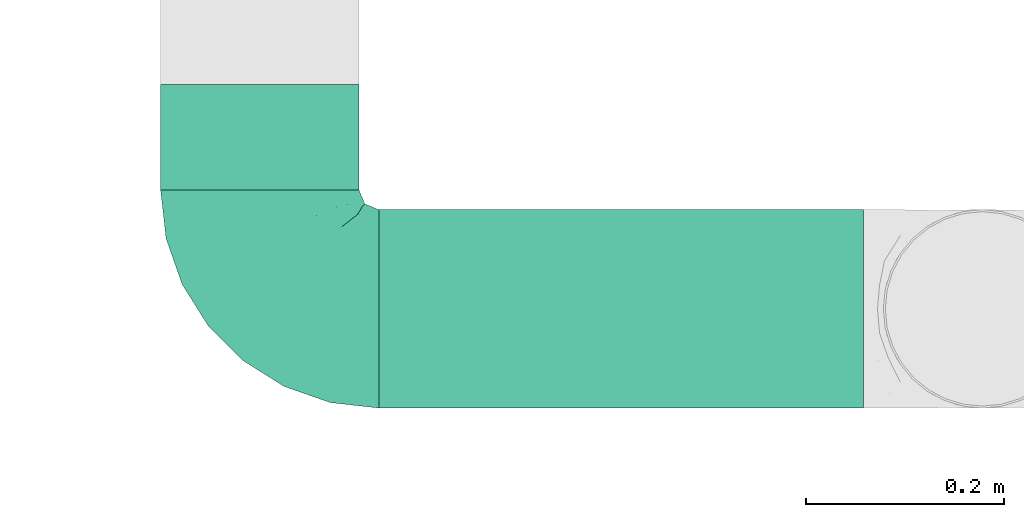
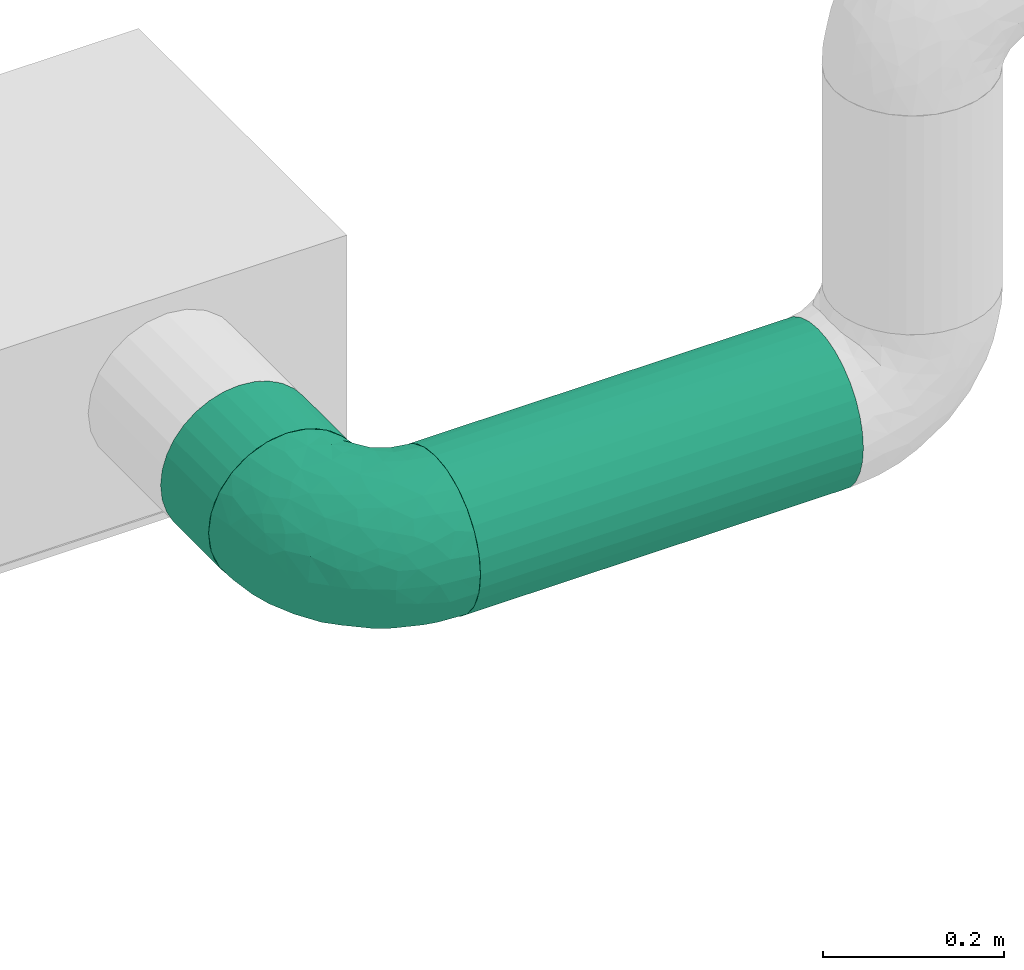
# One storey, part 6 of 31: 2 flow segments, 1 flow fitting.
"""IFC2X3 building model written with IfcOpenShell, lengths in millimetres."""

from ifc_helpers import new_model, entity, si_unit, converted_unit, derived_unit, direction, frame, origin_with_axes, origin_2d_with_axis, place, context, subcontext, project, spatial, hollow_circle, extrude, open_shell, surface_model, source, transform, mapped, type_object, element, save


model = new_model("IFC2X3")

# Units and contexts
model_context = context("Model", 3, precision=0.01, world=frame((0.0, 4.29681676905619e-09, 0.0)), true_north=direction((4.01073788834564e-13, 1.0)))
plan_context = context("Plan", 3, precision=0.01, world=frame((0.0, 4.29681676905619e-09, 0.0)), true_north=direction((4.01073788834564e-13, 1.0)))
body_context = subcontext(model_context, "Body", "Model", "MODEL_VIEW")
ifc_project = project(units=[converted_unit("PLANEANGLEUNIT", "DEGREE", entity("IfcPositiveLengthMeasure", 0.0174532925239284), si_unit("PLANEANGLEUNIT", "RADIAN"), dimensions=[0, 0, 0, 0, 0, 0, 0]), si_unit("AREAUNIT", "SQUARE_METRE"), si_unit("LENGTHUNIT", "METRE", prefix="MILLI"), si_unit("MASSUNIT", "GRAM", prefix="KILO"), si_unit("POWERUNIT", "WATT"), si_unit("PRESSUREUNIT", "PASCAL", prefix="KILO"), si_unit("FORCEUNIT", "NEWTON", prefix="KILO"), si_unit("ELECTRICVOLTAGEUNIT", "VOLT"), si_unit("ELECTRICCURRENTUNIT", "AMPERE"), si_unit("THERMODYNAMICTEMPERATUREUNIT", "DEGREE_CELSIUS"), si_unit("TIMEUNIT", "SECOND"), si_unit("VOLUMEUNIT", "CUBIC_METRE"), derived_unit("LINEARVELOCITYUNIT", [(si_unit("LENGTHUNIT", "METRE"), 1), (si_unit("TIMEUNIT", "SECOND"), -1)]), derived_unit("VOLUMETRICFLOWRATEUNIT", [(si_unit("VOLUMEUNIT", "CUBIC_METRE"), 1), (si_unit("TIMEUNIT", "SECOND"), -1)]), derived_unit("THERMALTRANSMITTANCEUNIT", [(si_unit("POWERUNIT", "WATT"), 1), (si_unit("THERMODYNAMICTEMPERATUREUNIT", "KELVIN"), -1), (si_unit("AREAUNIT", "SQUARE_METRE"), -1)]), derived_unit("SOUNDPRESSUREUNIT", [(si_unit("PRESSUREUNIT", "PASCAL"), 1)])], contexts=[model_context, plan_context])

# Site, building, storey
site_placement = place(None, frame((0.0, -4.29681676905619e-09, 0.0), z_axis=(0.0, 0.0, 1.0), x_axis=(1.0, 0.0, 0.0)))
site = spatial("IfcSite", under=ifc_project, at=site_placement, CompositionType="ELEMENT")
building_placement = place(site_placement, frame((0.0, 4.29681676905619e-09, 0.0), z_axis=(0.0, 0.0, 1.0), x_axis=(1.0, 0.0, 0.0)))
building = spatial("IfcBuilding", under=site, at=building_placement, Name="mc-building", CompositionType="ELEMENT")
storey_placement = place(building_placement, frame((0.0, 0.0, 210900.0), z_axis=(0.0, 0.0, 1.0), x_axis=(1.0, 0.0, 0.0)))
storey = spatial("IfcBuildingStorey", under=building, at=storey_placement, Name="Nivå F", CompositionType="ELEMENT", Elevation=210900.0)

# Flow fitting
duct_fitting_type = type_object("IfcDuctFittingType", Name="magicirc_elbow_short_001", PredefinedType="BEND")
shared_shape_1 = source(origin_with_axes(), body_context, "Body", "SurfaceModel", [
    surface_model("IfcShellBasedSurfaceModel", [(-120.0, 0.0, -100.0), (-120.0, -86.60254, -50.0), (-120.0, 25.8819, -96.59259), (-120.0, 50.0, -86.60254), (-120.0, 70.71068, -70.71068), (-120.0, 96.59259, -25.8819), (-120.0, 86.60254, -50.0), (-120.0, -50.0, -86.60254), (-120.0, -70.71068, -70.71068), (-120.0, -25.8819, -96.59259), (-120.0, -96.59259, -25.8819), (-120.0, -100.0, 0.0), (-120.0, 96.59259, 25.8819), (-120.0, -96.59259, 25.8819), (-120.0, 86.60254, 50.0), (-120.0, 25.8819, 96.59259), (-120.0, 50.0, 86.60254), (-120.0, 70.71068, 70.71068), (-120.0, -25.8819, 96.59259), (-120.0, -70.71068, 70.71068), (-120.0, -50.0, 86.60254), (-120.0, -86.60254, 50.0), (-120.0, 0.0, 100.0), (-120.0, 100.0, 0.0), (-25.8819, 120.0, -96.59259), (70.71068, 120.0, -70.71068), (0.0, 120.0, -100.0), (-70.71068, 120.0, -70.71068), (-50.0, 120.0, -86.60254), (-86.60254, 120.0, -50.0), (-96.59259, 120.0, -25.8819), (86.60254, 120.0, -50.0), (25.8819, 120.0, -96.59259), (50.0, 120.0, -86.60254), (100.0, 120.0, 0.0), (96.59259, 120.0, -25.8819), (-96.59259, 120.0, 25.8819), (96.59259, 120.0, 25.8819), (-25.8819, 120.0, 96.59259), (-86.60254, 120.0, 50.0), (-70.71068, 120.0, 70.71068), (-50.0, 120.0, 86.60254), (25.8819, 120.0, 96.59259), (86.60254, 120.0, 50.0), (50.0, 120.0, 86.60254), (70.71068, 120.0, 70.71068), (0.0, 120.0, 100.0), (-100.0, 120.0, 0.0), (-57.47657, 95.22229, 84.95805), (-85.33946, -92.96309, 28.79275), (-95.20929, -97.20676, 0.0), (-84.48473, -65.01559, 72.95431), (-52.96075, -70.60035, 57.16979), (-58.29219, -58.77958, 72.2572), (-71.0454, -94.48414, 0.0), (-33.46621, 86.30074, 96.24781), (-7.45333, 88.76819, 99.94878), (-26.53059, -25.83103, 84.66541), (5.23459, -24.1841, 70.44192), (-1.23107, 1.23105, 87.74618), (-103.71213, 103.71213, 24.44784), (-95.28171, 98.70414, 48.64074), (-78.83961, -43.63421, 87.3226), (48.45058, -8.12007, 40.03254), (39.62941, -27.51041, 22.8702), (55.13075, -9.11298, 21.86769), (27.15427, -27.15428, 47.29752), (-0.9865, -46.35038, 53.41318), (-49.25997, -85.42957, 23.21428), (-69.41482, -80.94006, 48.93369), (34.63169, 2.36241, 66.9375), (-59.03727, -17.74459, 95.19283), (-92.36993, -18.34983, 97.75252), (-98.24586, -81.70799, 55.95793), (-87.21661, 7.38787, 99.96319), (-79.82304, 33.86298, 96.83649), (-103.25245, 34.36931, 94.48617), (-49.8635, 16.95363, 99.89181), (-93.99414, 57.52782, 85.21417), (-13.524, 31.6217, 98.29715), (-30.34675, -2.85909, 94.71053), (-102.74619, 77.59979, 67.01377), (-105.2102, 88.7141, 52.03645), (94.48414, 71.0454, 0.0), (92.96309, 85.33946, 28.79275), (85.42957, 49.25997, 23.21428), (18.34983, 92.36993, 97.75252), (-37.44754, -44.66633, 76.66985), (-66.8783, 56.54931, 92.80405), (65.01559, 84.48473, 72.95431), (43.6342, 78.83961, 87.3226), (37.67702, 38.38344, 81.78155), (58.58205, 33.30331, 61.93165), (58.77958, 58.29217, 72.2572), (14.52663, -47.57763, 31.54394), (81.70799, 98.24586, 55.95793), (97.20676, 95.20929, 0.0), (75.2275, 38.8764, 40.54554), (80.94006, 69.41482, 48.93369), (-19.32309, 64.21329, 99.87988), (-105.85786, 105.85786, 0.0), (17.74458, 59.03726, 95.19283), (70.60036, 52.96074, 57.16978), (-82.76473, 82.76473, 73.92657), (-77.59979, 102.74619, 67.01377), (-38.87641, -75.2275, 40.54555), (-40.86148, 50.04827, 98.96107), (-25.82378, -76.70765, 19.45345), (-49.50418, 71.23352, 93.94065), (-57.3172, 35.12243, 98.9453), (65.10804, 3.68891, 0.0), (65.80674, 11.30259, 30.40508), (15.01777, 28.10412, 90.12797), (-0.1518, 65.0789, 99.29745), (-47.79548, -86.34864, 0.0), (-67.45496, 75.91085, 85.7741), (-3.68891, -65.10804, 0.0), (17.16776, -52.00293, 0.0), (-11.30259, -65.80674, 30.40508), (-24.54558, -78.21315, 0.0), (76.76895, 27.91333, 23.28633), (86.34864, 47.79548, 0.0), (58.40844, 13.74403, 48.13414), (52.00293, -17.16776, 0.0), (20.33542, 8.19535, 80.42602), (-51.11653, -33.50476, 87.58865), (-33.30333, -58.58206, 61.93166), (-17.26255, -60.80757, 47.57586), (78.21315, 24.54558, 0.0), (34.58534, -34.58534, 0.0), (-86.30074, 33.4662, -96.24781), (-34.36932, 103.25245, -94.48617), (-11.30259, -65.80673, -30.40508), (9.11298, -55.13075, -21.86769), (-98.24586, -81.70799, -55.95793), (-88.7682, 7.45333, -99.94878), (43.63421, 78.83961, -87.3226), (-98.70414, 95.28171, -48.64074), (-82.76473, 82.76473, -73.92657), (-102.74619, 77.59979, -67.01377), (85.42957, 49.25997, -23.21428), (75.22749, 38.8764, -40.54555), (80.94006, 69.41482, -48.93369), (27.15427, -27.15428, -47.29753), (47.57763, -14.52663, -31.54396), (27.51041, -39.62941, -22.8702), (-71.23352, 49.50417, -93.94066), (-56.54932, 66.8783, -92.80405), (-50.04827, 40.86148, -98.96107), (-33.86298, 79.82303, -96.83649), (-57.52782, 93.99414, -85.21417), (-16.95364, 49.8635, -99.89182), (-31.6217, 13.52399, -98.29715), (-85.33946, -92.96309, -28.79275), (24.18408, -5.23461, -70.44192), (46.35038, 0.9865, -53.41318), (65.01559, 84.48472, -72.95431), (-84.48473, -65.01559, -72.95431), (-78.83961, -43.63421, -87.3226), (-103.71213, 103.71213, -24.44784), (-95.22229, 57.47657, -84.95805), (-49.25997, -85.42957, -23.21428), (-92.36993, -18.34984, -97.75252), (-38.87641, -75.2275, -40.54555), (-69.41482, -80.94006, -48.93369), (-88.7141, 105.2102, -52.03645), (-7.38786, 87.21659, -99.96319), (17.74459, 59.03726, -95.19283), (-33.30333, -58.58206, -61.93166), (-52.96075, -70.60035, -57.16979), (-77.59979, 102.74619, -67.01377), (-38.38346, -37.67703, -81.78155), (-2.36242, -34.6317, -66.93751), (18.34983, 92.36993, -97.75252), (81.70799, 98.24586, -55.95793), (8.12006, -48.45058, -40.03254), (-1.23106, 1.23105, -87.74618), (25.83103, 26.53058, -84.6654), (92.96309, 85.33946, -28.79275), (76.70765, 25.82378, -19.45345), (-59.03727, -17.74459, -95.19283), (2.8591, 30.34673, -94.71053), (-64.21329, 19.32309, -99.87988), (58.77958, 58.29219, -72.2572), (70.60035, 52.96075, -57.16979), (-58.29219, -58.77958, -72.2572), (-35.12244, 57.3172, -98.9453), (44.66633, 37.44754, -76.66985), (-28.10413, -15.01778, -90.12797), (-65.07891, 0.1518, -99.29745), (-75.91086, 67.45496, -85.7741), (-27.91333, -76.76895, -23.28633), (-13.74403, -58.40844, -48.13415), (65.80673, 11.30258, -30.40508), (-8.19536, -20.33543, -80.42602), (33.50476, 51.11653, -87.58865), (58.58205, 33.30333, -61.93166), (60.80757, 17.26255, -47.57586)], [open_shell([[[0, 1, 2]], [[3, 2, 4]], [[5, 6, 4]], [[1, 4, 2]], [[4, 1, 5]], [[7, 8, 9]], [[8, 0, 9]], [[10, 11, 1]], [[1, 0, 8]], [[1, 11, 5]], [[11, 12, 5]], [[12, 11, 13]], [[14, 12, 15]], [[15, 16, 17]], [[14, 15, 17]], [[15, 12, 18]], [[19, 20, 21]], [[13, 21, 20]], [[13, 20, 12]], [[20, 18, 12]], [[18, 22, 15]], [[23, 5, 12]], [[24, 25, 26]], [[27, 24, 28]], [[27, 29, 30]], [[24, 27, 31]], [[30, 31, 27]], [[32, 25, 33]], [[32, 26, 25]], [[31, 34, 35]], [[25, 24, 31]], [[30, 34, 31]], [[30, 36, 34]], [[37, 34, 36]], [[38, 36, 39]], [[40, 41, 38]], [[40, 38, 39]], [[42, 36, 38]], [[43, 44, 45]], [[44, 43, 37]], [[36, 44, 37]], [[36, 42, 44]], [[38, 46, 42]], [[36, 30, 47]], [[41, 40, 48]], [[49, 13, 50]], [[49, 21, 13]], [[51, 52, 53]], [[50, 54, 49]], [[38, 55, 56]], [[57, 58, 59]], [[60, 61, 36]], [[20, 51, 62]], [[63, 64, 65]], [[66, 58, 67]], [[49, 68, 69]], [[20, 19, 51]], [[58, 66, 70]], [[62, 71, 72]], [[22, 18, 72]], [[73, 19, 21]], [[74, 75, 76]], [[75, 74, 77]], [[16, 76, 78]], [[79, 77, 80]], [[17, 81, 14]], [[82, 12, 14]], [[81, 82, 14]], [[23, 12, 60]], [[83, 84, 85]], [[16, 78, 17]], [[41, 48, 55]], [[42, 46, 86]], [[53, 87, 62]], [[18, 20, 62]], [[75, 88, 78]], [[89, 45, 44]], [[86, 90, 42]], [[60, 12, 82]], [[44, 42, 90]], [[91, 92, 93]], [[84, 37, 43]], [[66, 94, 64]], [[90, 89, 44]], [[45, 95, 43]], [[84, 96, 37]], [[97, 85, 98]], [[15, 76, 16]], [[99, 56, 55]], [[100, 23, 60]], [[91, 90, 101]], [[100, 60, 47]], [[92, 97, 102]], [[103, 104, 61]], [[68, 105, 69]], [[106, 77, 79]], [[61, 39, 36]], [[40, 39, 104]], [[15, 22, 74]], [[107, 105, 68]], [[108, 88, 106]], [[55, 38, 41]], [[56, 46, 38]], [[92, 91, 70]], [[109, 77, 106]], [[110, 111, 65]], [[74, 71, 77]], [[72, 74, 22]], [[80, 71, 57]], [[75, 109, 88]], [[81, 78, 103]], [[112, 79, 59]], [[113, 56, 99]], [[68, 54, 114]], [[73, 49, 69]], [[95, 84, 43]], [[85, 84, 98]], [[104, 48, 40]], [[115, 88, 108]], [[108, 99, 55]], [[56, 113, 86]], [[102, 93, 92]], [[95, 89, 98]], [[73, 51, 19]], [[52, 69, 105]], [[116, 117, 118]], [[68, 119, 107]], [[107, 116, 118]], [[67, 94, 66]], [[97, 111, 120]], [[85, 121, 83]], [[70, 63, 122]], [[65, 123, 110]], [[101, 112, 91]], [[66, 64, 63]], [[124, 91, 112]], [[70, 124, 58]], [[59, 80, 57]], [[58, 87, 67]], [[57, 125, 87]], [[58, 57, 87]], [[99, 108, 106]], [[78, 88, 115]], [[56, 86, 46]], [[90, 86, 101]], [[62, 72, 18]], [[74, 72, 71]], [[61, 104, 39]], [[104, 103, 115]], [[78, 81, 17]], [[82, 103, 61]], [[126, 127, 67]], [[67, 127, 94]], [[85, 128, 121]], [[94, 129, 64]], [[110, 120, 111]], [[63, 65, 111]], [[122, 63, 111]], [[70, 66, 63]], [[79, 80, 59]], [[77, 71, 80]], [[106, 79, 99]], [[113, 79, 101]], [[55, 48, 108]], [[48, 104, 115]], [[48, 115, 108]], [[78, 115, 103]], [[127, 105, 118]], [[105, 127, 52]], [[53, 52, 126]], [[51, 69, 52]], [[87, 53, 126]], [[62, 51, 53]], [[87, 126, 67]], [[57, 71, 125]], [[71, 62, 125]], [[62, 87, 125]], [[102, 97, 98]], [[122, 97, 92]], [[98, 89, 102]], [[93, 102, 89]], [[89, 90, 93]], [[91, 93, 90]], [[97, 122, 111]], [[70, 122, 92]], [[79, 113, 99]], [[86, 113, 101]], [[64, 123, 65]], [[85, 97, 120]], [[79, 112, 101]], [[120, 110, 128]], [[124, 112, 59]], [[58, 124, 59]], [[91, 124, 70]], [[103, 82, 81]], [[82, 61, 60]], [[13, 11, 50]], [[96, 84, 83]], [[96, 34, 37]], [[47, 60, 36]], [[74, 76, 15]], [[78, 76, 75]], [[49, 73, 21]], [[51, 73, 69]], [[89, 95, 45]], [[84, 95, 98]], [[88, 109, 106]], [[75, 77, 109]], [[54, 68, 49]], [[114, 119, 68]], [[105, 107, 118]], [[107, 119, 116]], [[117, 94, 118]], [[127, 126, 52]], [[94, 127, 118]], [[129, 94, 117]], [[129, 123, 64]], [[128, 85, 120]], [[3, 130, 2]], [[24, 131, 28]], [[132, 133, 116]], [[8, 134, 1]], [[2, 135, 0]], [[32, 33, 136]], [[137, 138, 139]], [[140, 141, 142]], [[6, 139, 4]], [[143, 144, 145]], [[6, 5, 137]], [[146, 147, 148]], [[149, 147, 150]], [[148, 151, 152]], [[1, 153, 10]], [[143, 154, 155]], [[153, 50, 10]], [[33, 25, 156]], [[157, 7, 158]], [[159, 137, 5]], [[8, 7, 157]], [[7, 9, 158]], [[3, 4, 160]], [[35, 34, 96]], [[54, 153, 161]], [[9, 162, 158]], [[163, 161, 164]], [[165, 30, 29]], [[23, 100, 159]], [[166, 167, 151]], [[47, 30, 159]], [[168, 163, 169]], [[29, 170, 165]], [[24, 26, 166]], [[168, 171, 172]], [[27, 170, 29]], [[149, 131, 166]], [[160, 130, 3]], [[149, 166, 151]], [[136, 167, 173]], [[174, 25, 31]], [[27, 28, 150]], [[28, 131, 150]], [[32, 173, 26]], [[136, 33, 156]], [[154, 143, 172]], [[2, 130, 135]], [[133, 175, 145]], [[154, 176, 177]], [[9, 0, 162]], [[140, 142, 178]], [[179, 141, 140]], [[96, 83, 178]], [[35, 96, 178]], [[171, 158, 180]], [[152, 151, 181]], [[182, 135, 130]], [[183, 156, 184]], [[171, 168, 185]], [[178, 31, 35]], [[173, 166, 26]], [[159, 5, 23]], [[149, 151, 186]], [[183, 187, 136]], [[181, 167, 177]], [[149, 186, 147]], [[170, 150, 138]], [[188, 152, 176]], [[189, 135, 182]], [[134, 153, 1]], [[161, 153, 164]], [[140, 83, 121]], [[174, 178, 142]], [[139, 160, 4]], [[190, 147, 146]], [[146, 182, 130]], [[135, 189, 162]], [[169, 185, 168]], [[134, 157, 164]], [[174, 156, 25]], [[184, 142, 141]], [[163, 132, 191]], [[161, 114, 54]], [[172, 175, 192]], [[133, 117, 116]], [[110, 123, 193]], [[140, 128, 179]], [[179, 110, 193]], [[155, 144, 143]], [[180, 188, 171]], [[143, 145, 175]], [[194, 171, 188]], [[172, 194, 154]], [[176, 181, 177]], [[154, 187, 155]], [[177, 195, 187]], [[154, 177, 187]], [[182, 146, 148]], [[150, 147, 190]], [[135, 162, 0]], [[158, 162, 180]], [[136, 173, 32]], [[166, 173, 167]], [[137, 139, 6]], [[139, 138, 190]], [[150, 170, 27]], [[165, 138, 137]], [[196, 197, 155]], [[155, 197, 144]], [[197, 196, 184]], [[144, 129, 145]], [[116, 191, 132]], [[175, 133, 132]], [[192, 175, 132]], [[172, 143, 175]], [[152, 181, 176]], [[151, 167, 181]], [[148, 152, 182]], [[189, 152, 180]], [[130, 160, 146]], [[160, 139, 190]], [[160, 190, 146]], [[150, 190, 138]], [[169, 163, 164]], [[192, 163, 168]], [[164, 157, 169]], [[185, 169, 157]], [[157, 158, 185]], [[171, 185, 158]], [[197, 141, 193]], [[141, 197, 184]], [[183, 184, 196]], [[156, 142, 184]], [[187, 183, 196]], [[136, 156, 183]], [[187, 196, 155]], [[177, 167, 195]], [[167, 136, 195]], [[136, 187, 195]], [[163, 192, 132]], [[172, 192, 168]], [[152, 189, 182]], [[162, 189, 180]], [[145, 117, 133]], [[161, 163, 191]], [[152, 188, 180]], [[191, 116, 119]], [[194, 188, 176]], [[154, 194, 176]], [[171, 194, 172]], [[138, 165, 170]], [[165, 137, 159]], [[50, 153, 54]], [[50, 11, 10]], [[47, 159, 100]], [[159, 30, 165]], [[166, 131, 24]], [[150, 131, 149]], [[178, 174, 31]], [[156, 174, 142]], [[157, 134, 8]], [[153, 134, 164]], [[151, 148, 186]], [[147, 186, 148]], [[161, 119, 114]], [[83, 140, 178]], [[121, 128, 140]], [[141, 179, 193]], [[179, 128, 110]], [[123, 144, 193]], [[144, 197, 193]], [[129, 144, 123]], [[129, 117, 145]], [[119, 161, 191]]])]),
])
flow_fitting_placement = place(storey_placement, frame((720209.71571, 437405.213, 3320.0), z_axis=(0.0, 0.0, 1.0), x_axis=(0.0, -1.0, 0.0)))
element("IfcFlowFitting", 1, at=flow_fitting_placement, inside=storey, type_object=duct_fitting_type, Name="magicirc_elbow_short_001", context=body_context, shape_type="MappedRepresentation", body=[
    mapped(shared_shape_1, transform((0.0, 0.0, 0.0), scale=1.0)),
])

# Flow segments
duct_segment_type = type_object("IfcDuctSegmentType", Name="KK001T - Spiro kanaler, Forsinket stål", PredefinedType="RIGIDSEGMENT")
shared_shape_2 = source(origin_with_axes(), body_context, "Body", "SweptSolid", [
    extrude(hollow_circle(Radius=100.0, WallThickness=2.0, at=origin_2d_with_axis()), frame((0.0, 0.0, 0.0), z_axis=(1.0, 0.0, 0.0), x_axis=(0.0, 1.0, 0.0)), (0.0, 0.0, 1.0), 488.5),
])
flow_segment_1_placement = place(storey_placement, frame((720329.71571, 437405.213, 3320.0), z_axis=(0.0, 0.0, 1.0), x_axis=(1.0, 0.0, 0.0)))
element("IfcFlowSegment", 2, at=flow_segment_1_placement, inside=storey, type_object=duct_segment_type, Name="KK001T - Spiro kanaler, Forsinket stål", context=body_context, shape_type="MappedRepresentation", body=[
    mapped(shared_shape_2, transform((0.0, 0.0, 0.0), scale=1.0)),
])
shared_shape_3 = source(origin_with_axes(), body_context, "Body", "SweptSolid", [
    extrude(hollow_circle(Radius=100.0, WallThickness=2.0, at=origin_2d_with_axis()), frame((0.0, 0.0, 0.0), z_axis=(1.0, 0.0, 0.0), x_axis=(0.0, 1.0, 0.0)), (0.0, 0.0, 1.0), 106.0),
])
flow_segment_2_placement = place(storey_placement, frame((720209.71571, 437631.20671, 3320.0), z_axis=(0.0, 0.0, 1.0), x_axis=(0.0, -1.0, 0.0)))
element("IfcFlowSegment", 3, at=flow_segment_2_placement, inside=storey, type_object=duct_segment_type, Name="KK001T - Spiro kanaler, Forsinket stål", context=body_context, shape_type="MappedRepresentation", body=[
    mapped(shared_shape_3, transform((0.0, 0.0, 0.0), scale=1.0)),
])

save(model, "model.ifc")
